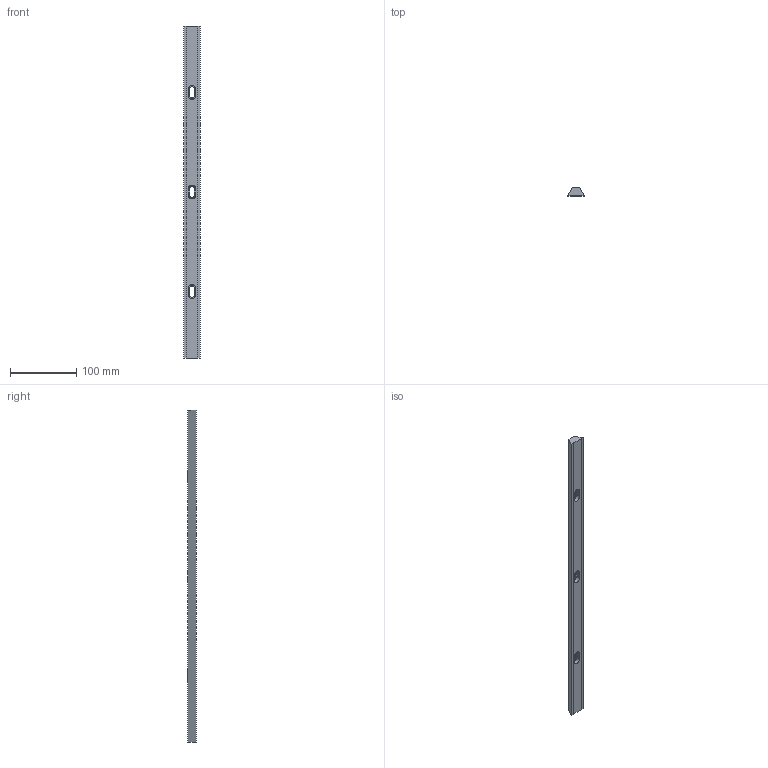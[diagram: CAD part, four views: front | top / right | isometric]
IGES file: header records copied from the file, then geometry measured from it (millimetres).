
Start section:  PTC IGES file: EOB01S.igs
Global section: file name: EOB01S.igs; native system: Pro/ENGINEER by Parametric Technology Corporation; preprocessor: 2006460; author: Owner; organization: Unknown; date: 20130731.161110; units: millimetre
Bounding box: 25 x 12.5 x 500 mm (x, y, z)
Surface area: 34249.3 mm2 (no closed solid volume)
Topology: 0 solids, 0 shells, 37 faces, 192 edges, 192 vertices
Faces by surface type: bspline 25, revolution 12
